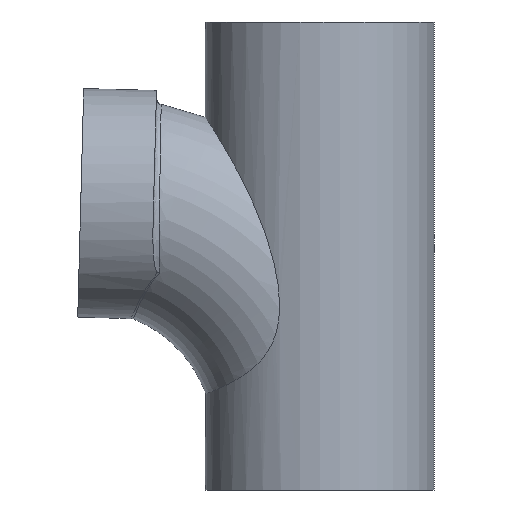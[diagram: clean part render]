
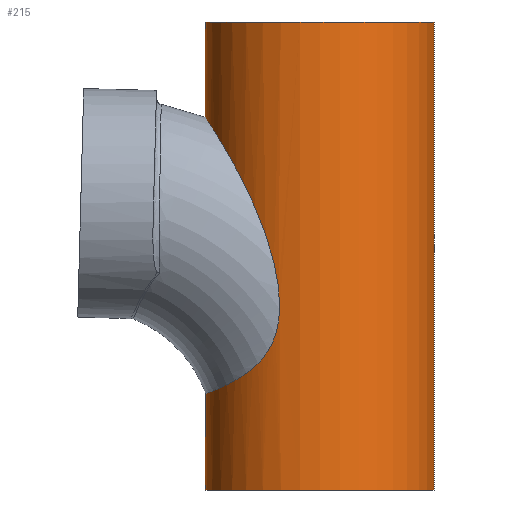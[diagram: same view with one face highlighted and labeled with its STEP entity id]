
A CAD part, front view. The second image highlights one B-rep face of the part: STEP entity #215.
In plain terms, the highlighted cylindrical face has radius 55 mm (diameter 110 mm), a full revolution.
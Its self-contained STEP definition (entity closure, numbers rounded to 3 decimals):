
#28=FACE_BOUND($,#86,.T.);
#29=FACE_BOUND($,#87,.T.);
#35=CYLINDRICAL_SURFACE($,#240,55.);
#43=CIRCLE($,#237,55.);
#45=CIRCLE($,#241,55.);
#62=FACE_OUTER_BOUND($,#85,.T.);
#85=EDGE_LOOP($,(#195));
#86=EDGE_LOOP($,(#196));
#87=EDGE_LOOP($,(#197));
#104=B_SPLINE_CURVE_WITH_KNOTS($,3,(#844,#845,#846,#847,#848,#849,#850,
#851,#852,#853,#854,#855,#856,#857,#858,#859,#860,#861,#862,#863,#864,#865,
#866,#867,#868,#869,#870,#871,#872,#873,#874,#875,#876,#877,#878,#879,#880,
#881,#882,#883,#884,#885,#886,#887,#888,#889),.UNSPECIFIED.,.T.,.F.,(4,
2,2,2,2,2,2,2,2,2,2,2,2,2,2,2,2,2,2,2,2,2,4),(0.,1.184,2.478,
4.179,6.591,10.041,11.721,12.968,
14.111,15.357,16.79,18.256,19.722,
21.223,22.731,23.92,24.886,26.031,
27.97,31.721,33.963,35.559,36.77),
 .UNSPECIFIED.);
#120=VERTEX_POINT($,#843);
#122=VERTEX_POINT($,#893);
#124=VERTEX_POINT($,#899);
#145=EDGE_CURVE($,#120,#120,#104,.T.);
#147=EDGE_CURVE($,#122,#122,#43,.T.);
#149=EDGE_CURVE($,#124,#124,#45,.T.);
#195=ORIENTED_EDGE($,*,*,#149,.T.);
#196=ORIENTED_EDGE($,*,*,#145,.T.);
#197=ORIENTED_EDGE($,*,*,#147,.F.);
#215=ADVANCED_FACE($,(#62,#28,#29),#35,.T.);
#237=AXIS2_PLACEMENT_3D($,#894,#279,#280);
#240=AXIS2_PLACEMENT_3D($,#898,#285,#286);
#241=AXIS2_PLACEMENT_3D($,#900,#287,#288);
#279=DIRECTION('center_axis',(0.,0.,-1.));
#280=DIRECTION('ref_axis',(-1.,0.,0.));
#285=DIRECTION('center_axis',(0.,0.,1.));
#286=DIRECTION('ref_axis',(-1.,0.,0.));
#287=DIRECTION('center_axis',(0.,0.,-1.));
#288=DIRECTION('ref_axis',(-1.,0.,0.));
#843=CARTESIAN_POINT('',(-55.,0.,179.137));
#844=CARTESIAN_POINT('Ctrl Pts',(-55.,0.,179.137));
#845=CARTESIAN_POINT('Ctrl Pts',(-55.,-3.948,179.137));
#846=CARTESIAN_POINT('Ctrl Pts',(-54.573,-7.819,178.496));
#847=CARTESIAN_POINT('Ctrl Pts',(-52.91,-15.577,175.948));
#848=CARTESIAN_POINT('Ctrl Pts',(-51.635,-19.294,173.974));
#849=CARTESIAN_POINT('Ctrl Pts',(-48.14,-27.034,168.374));
#850=CARTESIAN_POINT('Ctrl Pts',(-45.765,-30.76,164.443));
#851=CARTESIAN_POINT('Ctrl Pts',(-39.874,-38.295,154.038));
#852=CARTESIAN_POINT('Ctrl Pts',(-36.05,-41.785,146.79));
#853=CARTESIAN_POINT('Ctrl Pts',(-27.143,-48.273,126.918));
#854=CARTESIAN_POINT('Ctrl Pts',(-22.607,-50.189,114.042));
#855=CARTESIAN_POINT('Ctrl Pts',(-19.515,-51.433,96.092));
#856=CARTESIAN_POINT('Ctrl Pts',(-18.982,-51.624,89.81));
#857=CARTESIAN_POINT('Ctrl Pts',(-19.923,-51.267,79.332));
#858=CARTESIAN_POINT('Ctrl Pts',(-20.923,-50.905,74.969));
#859=CARTESIAN_POINT('Ctrl Pts',(-24.43,-49.311,67.206));
#860=CARTESIAN_POINT('Ctrl Pts',(-26.68,-48.197,64.026));
#861=CARTESIAN_POINT('Ctrl Pts',(-32.204,-44.716,58.28));
#862=CARTESIAN_POINT('Ctrl Pts',(-35.46,-42.286,55.874));
#863=CARTESIAN_POINT('Ctrl Pts',(-42.386,-35.435,51.606));
#864=CARTESIAN_POINT('Ctrl Pts',(-46.003,-30.803,49.897));
#865=CARTESIAN_POINT('Ctrl Pts',(-51.87,-19.404,47.342));
#866=CARTESIAN_POINT('Ctrl Pts',(-53.848,-13.036,46.609));
#867=CARTESIAN_POINT('Ctrl Pts',(-55.403,0.218,46.021));
#868=CARTESIAN_POINT('Ctrl Pts',(-54.966,6.971,46.175));
#869=CARTESIAN_POINT('Ctrl Pts',(-51.647,20.115,47.468));
#870=CARTESIAN_POINT('Ctrl Pts',(-48.8,26.115,48.591));
#871=CARTESIAN_POINT('Ctrl Pts',(-41.739,36.356,52.012));
#872=CARTESIAN_POINT('Ctrl Pts',(-37.677,40.364,54.246));
#873=CARTESIAN_POINT('Ctrl Pts',(-30.803,45.727,59.595));
#874=CARTESIAN_POINT('Ctrl Pts',(-27.864,47.498,62.46));
#875=CARTESIAN_POINT('Ctrl Pts',(-23.461,49.795,69.037));
#876=CARTESIAN_POINT('Ctrl Pts',(-21.968,50.434,72.29));
#877=CARTESIAN_POINT('Ctrl Pts',(-19.756,51.346,80.083));
#878=CARTESIAN_POINT('Ctrl Pts',(-19.289,51.507,84.561));
#879=CARTESIAN_POINT('Ctrl Pts',(-19.338,51.488,96.549));
#880=CARTESIAN_POINT('Ctrl Pts',(-20.755,50.978,104.473));
#881=CARTESIAN_POINT('Ctrl Pts',(-26.419,48.413,125.925));
#882=CARTESIAN_POINT('Ctrl Pts',(-32.755,45.09,140.311));
#883=CARTESIAN_POINT('Ctrl Pts',(-42.872,34.87,159.576));
#884=CARTESIAN_POINT('Ctrl Pts',(-46.343,30.221,165.423));
#885=CARTESIAN_POINT('Ctrl Pts',(-50.988,21.058,172.969));
#886=CARTESIAN_POINT('Ctrl Pts',(-52.657,16.668,175.559));
#887=CARTESIAN_POINT('Ctrl Pts',(-54.555,7.971,178.468));
#888=CARTESIAN_POINT('Ctrl Pts',(-55.,4.035,179.137));
#889=CARTESIAN_POINT('Ctrl Pts',(-55.,0.,179.137));
#893=CARTESIAN_POINT('',(55.,0.,0.));
#894=CARTESIAN_POINT('Origin',(0.,0.,0.));
#898=CARTESIAN_POINT('Origin',(0.,0.,0.));
#899=CARTESIAN_POINT('',(55.,0.,225.));
#900=CARTESIAN_POINT('Origin',(0.,0.,225.));
